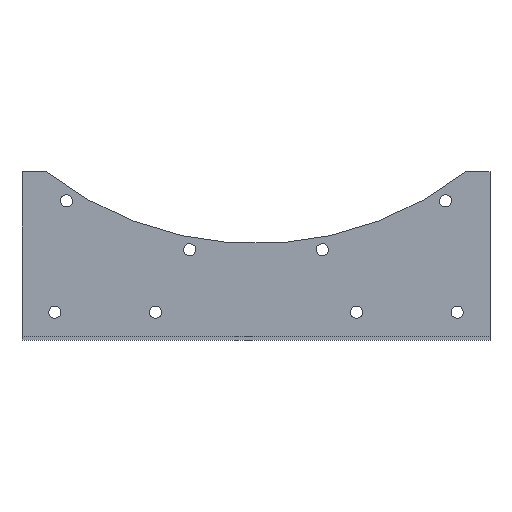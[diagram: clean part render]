
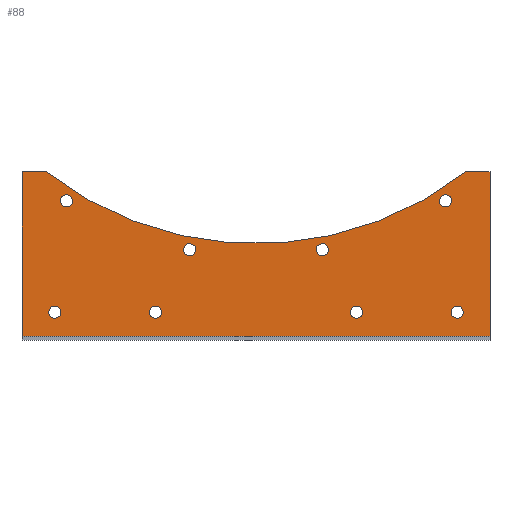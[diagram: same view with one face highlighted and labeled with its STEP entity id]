
A CAD part, top view. The second image highlights one B-rep face of the part: STEP entity #88.
In plain terms, the highlighted planar face has unit normal (0, 0, 1).
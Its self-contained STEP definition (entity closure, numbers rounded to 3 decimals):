
#88=ADVANCED_FACE('',(#184,#185,#186,#187,#188,#189,#190,#191,#192),#193,.T.);
#184=FACE_BOUND('',#285,.T.);
#185=FACE_BOUND('',#286,.T.);
#186=FACE_BOUND('',#287,.T.);
#187=FACE_BOUND('',#288,.T.);
#188=FACE_BOUND('',#289,.T.);
#189=FACE_BOUND('',#290,.T.);
#190=FACE_BOUND('',#291,.T.);
#191=FACE_BOUND('',#292,.T.);
#192=FACE_OUTER_BOUND('',#293,.T.);
#193=PLANE('',#294);
#285=EDGE_LOOP('',(#485,#486));
#286=EDGE_LOOP('',(#487,#488));
#287=EDGE_LOOP('',(#489,#490));
#288=EDGE_LOOP('',(#491,#492));
#289=EDGE_LOOP('',(#493,#494));
#290=EDGE_LOOP('',(#495,#496));
#291=EDGE_LOOP('',(#497,#498));
#292=EDGE_LOOP('',(#499,#500));
#293=EDGE_LOOP('',(#501,#502,#503,#504,#505,#506));
#294=AXIS2_PLACEMENT_3D('',#507,#508,#509);
#485=ORIENTED_EDGE('',*,*,#599,.T.);
#486=ORIENTED_EDGE('',*,*,#604,.T.);
#487=ORIENTED_EDGE('',*,*,#594,.T.);
#488=ORIENTED_EDGE('',*,*,#607,.T.);
#489=ORIENTED_EDGE('',*,*,#589,.T.);
#490=ORIENTED_EDGE('',*,*,#610,.T.);
#491=ORIENTED_EDGE('',*,*,#584,.T.);
#492=ORIENTED_EDGE('',*,*,#613,.T.);
#493=ORIENTED_EDGE('',*,*,#579,.T.);
#494=ORIENTED_EDGE('',*,*,#616,.T.);
#495=ORIENTED_EDGE('',*,*,#574,.T.);
#496=ORIENTED_EDGE('',*,*,#619,.T.);
#497=ORIENTED_EDGE('',*,*,#569,.T.);
#498=ORIENTED_EDGE('',*,*,#622,.T.);
#499=ORIENTED_EDGE('',*,*,#564,.T.);
#500=ORIENTED_EDGE('',*,*,#625,.T.);
#501=ORIENTED_EDGE('',*,*,#627,.T.);
#502=ORIENTED_EDGE('',*,*,#641,.F.);
#503=ORIENTED_EDGE('',*,*,#642,.F.);
#504=ORIENTED_EDGE('',*,*,#643,.F.);
#505=ORIENTED_EDGE('',*,*,#644,.F.);
#506=ORIENTED_EDGE('',*,*,#638,.F.);
#507=CARTESIAN_POINT('',(0.0,4.0,-18.5));
#508=DIRECTION('',(0.0,0.0,1.0));
#509=DIRECTION('',(1.0,0.0,0.0));
#564=EDGE_CURVE('',#664,#661,#665,.T.);
#569=EDGE_CURVE('',#673,#670,#674,.T.);
#574=EDGE_CURVE('',#682,#679,#683,.T.);
#579=EDGE_CURVE('',#691,#688,#692,.T.);
#584=EDGE_CURVE('',#700,#697,#701,.T.);
#589=EDGE_CURVE('',#709,#706,#710,.T.);
#594=EDGE_CURVE('',#718,#715,#719,.T.);
#599=EDGE_CURVE('',#727,#724,#728,.T.);
#604=EDGE_CURVE('',#724,#727,#734,.T.);
#607=EDGE_CURVE('',#715,#718,#737,.T.);
#610=EDGE_CURVE('',#706,#709,#740,.T.);
#613=EDGE_CURVE('',#697,#700,#743,.T.);
#616=EDGE_CURVE('',#688,#691,#746,.T.);
#619=EDGE_CURVE('',#679,#682,#749,.T.);
#622=EDGE_CURVE('',#670,#673,#752,.T.);
#625=EDGE_CURVE('',#661,#664,#755,.T.);
#627=EDGE_CURVE('',#757,#758,#759,.T.);
#638=EDGE_CURVE('',#757,#776,#777,.T.);
#641=EDGE_CURVE('',#780,#758,#781,.T.);
#642=EDGE_CURVE('',#782,#780,#783,.T.);
#643=EDGE_CURVE('',#784,#782,#785,.T.);
#644=EDGE_CURVE('',#776,#784,#786,.T.);
#661=VERTEX_POINT('',#807);
#664=VERTEX_POINT('',#811);
#665=CIRCLE('',#812,6.5);
#670=VERTEX_POINT('',#818);
#673=VERTEX_POINT('',#822);
#674=CIRCLE('',#823,6.5);
#679=VERTEX_POINT('',#829);
#682=VERTEX_POINT('',#833);
#683=CIRCLE('',#834,6.5);
#688=VERTEX_POINT('',#840);
#691=VERTEX_POINT('',#844);
#692=CIRCLE('',#845,6.5);
#697=VERTEX_POINT('',#851);
#700=VERTEX_POINT('',#855);
#701=CIRCLE('',#856,6.5);
#706=VERTEX_POINT('',#862);
#709=VERTEX_POINT('',#866);
#710=CIRCLE('',#867,6.5);
#715=VERTEX_POINT('',#873);
#718=VERTEX_POINT('',#877);
#719=CIRCLE('',#878,6.5);
#724=VERTEX_POINT('',#884);
#727=VERTEX_POINT('',#888);
#728=CIRCLE('',#889,6.5);
#734=CIRCLE('',#896,6.5);
#737=CIRCLE('',#899,6.5);
#740=CIRCLE('',#902,6.5);
#743=CIRCLE('',#905,6.5);
#746=CIRCLE('',#908,6.5);
#749=CIRCLE('',#911,6.5);
#752=CIRCLE('',#914,6.5);
#755=CIRCLE('',#917,6.5);
#757=VERTEX_POINT('',#919);
#758=VERTEX_POINT('',#920);
#759=CIRCLE('',#921,365.0);
#776=VERTEX_POINT('',#945);
#777=LINE('',#946,#947);
#780=VERTEX_POINT('',#951);
#781=LINE('',#952,#953);
#782=VERTEX_POINT('',#954);
#783=LINE('',#955,#956);
#784=VERTEX_POINT('',#957);
#785=LINE('',#958,#959);
#786=LINE('',#960,#961);
#807=CARTESIAN_POINT('',(-208.5,-60.0,-18.5));
#811=CARTESIAN_POINT('',(-221.5,-60.0,-18.5));
#812=AXIS2_PLACEMENT_3D('',#991,#992,#993);
#818=CARTESIAN_POINT('',(221.5,-60.0,-18.5));
#822=CARTESIAN_POINT('',(208.5,-60.0,-18.5));
#823=AXIS2_PLACEMENT_3D('',#999,#1000,#1001);
#829=CARTESIAN_POINT('',(-101.0,-60.0,-18.5));
#833=CARTESIAN_POINT('',(-114.0,-60.0,-18.5));
#834=AXIS2_PLACEMENT_3D('',#1007,#1008,#1009);
#840=CARTESIAN_POINT('',(114.0,-60.0,-18.5));
#844=CARTESIAN_POINT('',(101.0,-60.0,-18.5));
#845=AXIS2_PLACEMENT_3D('',#1015,#1016,#1017);
#851=CARTESIAN_POINT('',(77.215,7.913,-18.5));
#855=CARTESIAN_POINT('',(64.445,5.477,-18.5));
#856=AXIS2_PLACEMENT_3D('',#1023,#1024,#1025);
#862=CARTESIAN_POINT('',(-64.445,5.477,-18.5));
#866=CARTESIAN_POINT('',(-77.215,7.913,-18.5));
#867=AXIS2_PLACEMENT_3D('',#1031,#1032,#1033);
#873=CARTESIAN_POINT('',(-197.054,55.361,-18.5));
#877=CARTESIAN_POINT('',(-208.031,62.327,-18.5));
#878=AXIS2_PLACEMENT_3D('',#1039,#1040,#1041);
#884=CARTESIAN_POINT('',(208.031,62.327,-18.5));
#888=CARTESIAN_POINT('',(197.054,55.361,-18.5));
#889=AXIS2_PLACEMENT_3D('',#1047,#1048,#1049);
#896=AXIS2_PLACEMENT_3D('',#1057,#1058,#1059);
#899=AXIS2_PLACEMENT_3D('',#1063,#1064,#1065);
#902=AXIS2_PLACEMENT_3D('',#1069,#1070,#1071);
#905=AXIS2_PLACEMENT_3D('',#1075,#1076,#1077);
#908=AXIS2_PLACEMENT_3D('',#1081,#1082,#1083);
#911=AXIS2_PLACEMENT_3D('',#1087,#1088,#1089);
#914=AXIS2_PLACEMENT_3D('',#1093,#1094,#1095);
#917=AXIS2_PLACEMENT_3D('',#1099,#1100,#1101);
#919=CARTESIAN_POINT('',(224.234,90.0,-18.5));
#920=CARTESIAN_POINT('',(-224.234,90.0,-18.5));
#921=AXIS2_PLACEMENT_3D('',#1102,#1103,#1104);
#945=CARTESIAN_POINT('',(250.0,90.0,-18.5));
#946=CARTESIAN_POINT('',(0.0,90.0,-18.5));
#947=VECTOR('',#1115,1.0);
#951=CARTESIAN_POINT('',(-250.0,90.0,-18.5));
#952=CARTESIAN_POINT('',(0.0,90.0,-18.5));
#953=VECTOR('',#1117,1.0);
#954=CARTESIAN_POINT('',(-250.0,-86.0,-18.5));
#955=CARTESIAN_POINT('',(-250.0,2.0,-18.5));
#956=VECTOR('',#1118,1.0);
#957=CARTESIAN_POINT('',(250.0,-86.0,-18.5));
#958=CARTESIAN_POINT('',(0.0,-86.0,-18.5));
#959=VECTOR('',#1119,1.0);
#960=CARTESIAN_POINT('',(250.0,2.0,-18.5));
#961=VECTOR('',#1120,1.0);
#991=CARTESIAN_POINT('',(-215.0,-60.0,-18.5));
#992=DIRECTION('',(0.0,0.0,-1.0));
#993=DIRECTION('',(1.0,0.0,0.0));
#999=CARTESIAN_POINT('',(215.0,-60.0,-18.5));
#1000=DIRECTION('',(0.0,0.0,-1.0));
#1001=DIRECTION('',(1.0,0.0,0.0));
#1007=CARTESIAN_POINT('',(-107.5,-60.0,-18.5));
#1008=DIRECTION('',(0.0,0.0,-1.0));
#1009=DIRECTION('',(1.0,0.0,0.0));
#1015=CARTESIAN_POINT('',(107.5,-60.0,-18.5));
#1016=DIRECTION('',(0.0,0.0,-1.0));
#1017=DIRECTION('',(1.0,0.0,0.0));
#1023=CARTESIAN_POINT('',(70.83,6.695,-18.5));
#1024=DIRECTION('',(0.0,0.0,-1.0));
#1025=DIRECTION('',(0.982,0.187,0.0));
#1031=CARTESIAN_POINT('',(-70.83,6.695,-18.5));
#1032=DIRECTION('',(0.0,-0.0,-1.0));
#1033=DIRECTION('',(0.982,-0.187,0.0));
#1039=CARTESIAN_POINT('',(-202.543,58.844,-18.5));
#1040=DIRECTION('',(0.0,-0.0,-1.0));
#1041=DIRECTION('',(0.844,-0.536,0.0));
#1047=CARTESIAN_POINT('',(202.543,58.844,-18.5));
#1048=DIRECTION('',(0.0,0.0,-1.0));
#1049=DIRECTION('',(0.844,0.536,0.0));
#1057=CARTESIAN_POINT('',(202.543,58.844,-18.5));
#1058=DIRECTION('',(0.0,0.0,-1.0));
#1059=DIRECTION('',(0.844,0.536,0.0));
#1063=CARTESIAN_POINT('',(-202.543,58.844,-18.5));
#1064=DIRECTION('',(0.0,-0.0,-1.0));
#1065=DIRECTION('',(0.844,-0.536,0.0));
#1069=CARTESIAN_POINT('',(-70.83,6.695,-18.5));
#1070=DIRECTION('',(0.0,-0.0,-1.0));
#1071=DIRECTION('',(0.982,-0.187,0.0));
#1075=CARTESIAN_POINT('',(70.83,6.695,-18.5));
#1076=DIRECTION('',(0.0,0.0,-1.0));
#1077=DIRECTION('',(0.982,0.187,0.0));
#1081=CARTESIAN_POINT('',(107.5,-60.0,-18.5));
#1082=DIRECTION('',(0.0,0.0,-1.0));
#1083=DIRECTION('',(1.0,0.0,0.0));
#1087=CARTESIAN_POINT('',(-107.5,-60.0,-18.5));
#1088=DIRECTION('',(0.0,0.0,-1.0));
#1089=DIRECTION('',(1.0,0.0,0.0));
#1093=CARTESIAN_POINT('',(215.0,-60.0,-18.5));
#1094=DIRECTION('',(0.0,0.0,-1.0));
#1095=DIRECTION('',(1.0,0.0,0.0));
#1099=CARTESIAN_POINT('',(-215.0,-60.0,-18.5));
#1100=DIRECTION('',(0.0,0.0,-1.0));
#1101=DIRECTION('',(1.0,0.0,0.0));
#1102=CARTESIAN_POINT('',(0.0,378.0,-18.5));
#1103=DIRECTION('',(0.0,0.0,-1.0));
#1104=DIRECTION('',(1.0,0.0,0.0));
#1115=DIRECTION('',(1.0,0.0,-0.0));
#1117=DIRECTION('',(1.0,0.0,-0.0));
#1118=DIRECTION('',(0.0,1.0,0.0));
#1119=DIRECTION('',(-1.0,0.0,0.0));
#1120=DIRECTION('',(0.0,-1.0,0.0));
